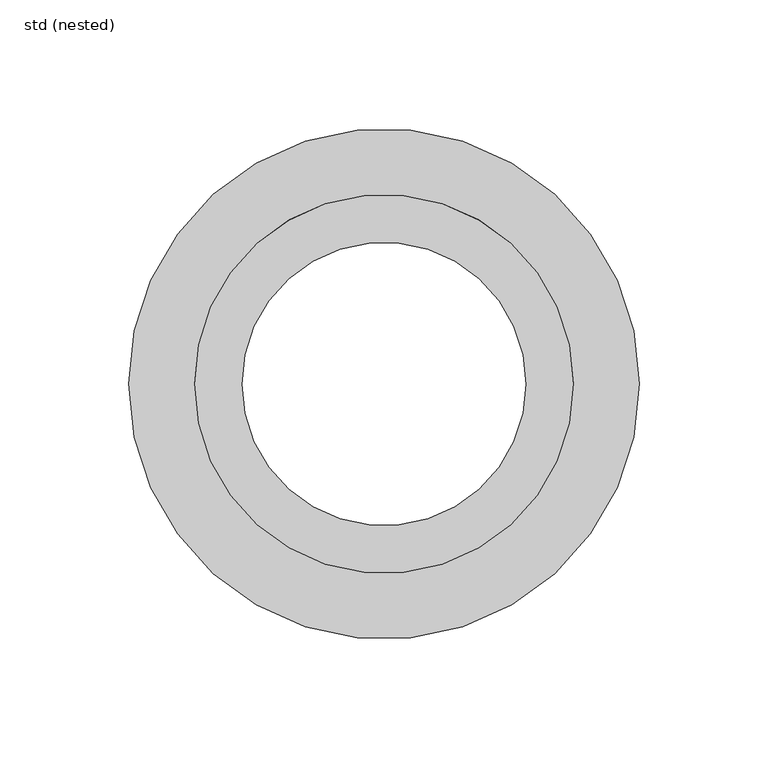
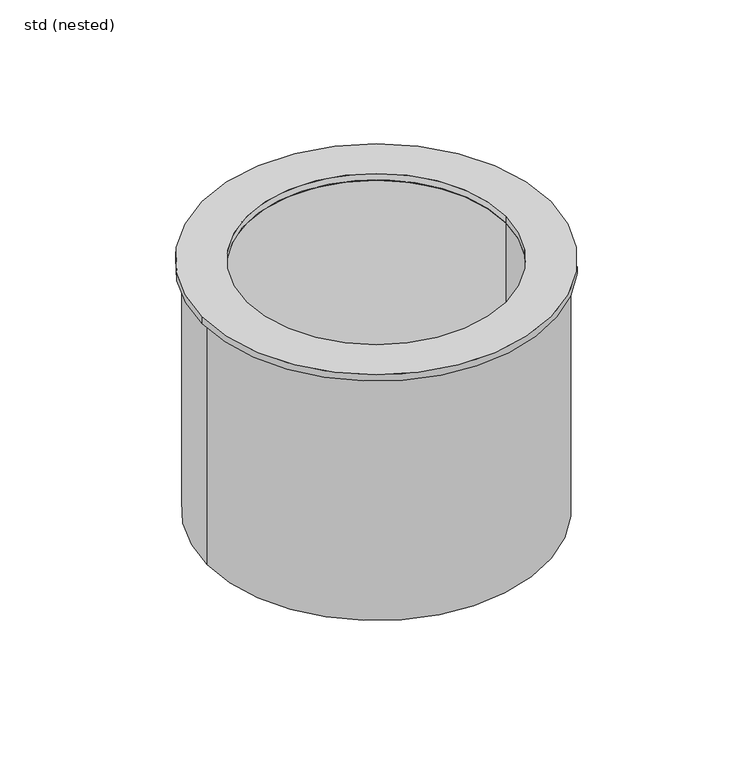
"""IFC4 building model written with IfcOpenShell, lengths in millimetres: damper geometry, ZZZ_do_not_use_PIA_GEN_UN_fire resistant kit for hygienic gullies_ACO : std (nested)."""

from ifc_helpers import new_model, si_unit, point, frame, origin, origin_with_axes, origin_2d, place, context, project, spatial, polyline, circle_curve, trimmed, segment, composite_curve, outline, extrude, source, transform, mapped, element, save
from ifc_brep_helpers import plane_surface, cylinder_surface, revolved_surface, advanced_brep


def std_nested_5a4e82dd(model_context):
    return source(origin(), model_context, "Body", "SolidModel", [
        advanced_brep(
        [(-96.0, 0.0, -150.0), (96.0, 0.0, -150.0), (-55.0, 0.0, -150.0), (55.0, 0.0, -150.0), (-96.0, 0.0, -4.0), (96.0, 0.0, -4.0), (-73.5, 0.0, -4.0), (73.5, 0.0, -4.0), (-73.5, 0.0, -146.0), (73.5, 0.0, -146.0), (96.0, 0.0, -146.0), (-96.0, 0.0, -146.0), (-55.0, 0.0, -146.0), (55.0, 0.0, -146.0)],
        [
            (0, 1, circle_curve(frame((0.0, 0.0, -150.0), z_axis=(0.0, 0.0, -1.0), x_axis=(1.0, 0.0, 0.0)), 96.0)),
            (1, 0, circle_curve(frame((0.0, 0.0, -150.0), z_axis=(0.0, 0.0, -1.0), x_axis=(1.0, 0.0, 0.0)), 96.0)),
            (2, 3, circle_curve(frame((0.0, 0.0, -150.0), z_axis=(0.0, 0.0, 1.0), x_axis=(1.0, 0.0, 0.0)), 55.0)),
            (3, 2, circle_curve(frame((0.0, 0.0, -150.0), z_axis=(0.0, 0.0, 1.0), x_axis=(1.0, 0.0, 0.0)), 55.0)),
            (4, 5, circle_curve(frame((0.0, 0.0, -4.0), z_axis=(0.0, 0.0, 1.0), x_axis=(1.0, 0.0, 0.0)), 96.0)),
            (5, 4, circle_curve(frame((0.0, 0.0, -4.0), z_axis=(0.0, 0.0, 1.0), x_axis=(1.0, 0.0, 0.0)), 96.0)),
            (6, 7, circle_curve(frame((0.0, 0.0, -4.0), z_axis=(0.0, 0.0, -1.0), x_axis=(1.0, 0.0, 0.0)), 73.5)),
            (7, 6, circle_curve(frame((0.0, 0.0, -4.0), z_axis=(0.0, 0.0, -1.0), x_axis=(1.0, 0.0, 0.0)), 73.5)),
            (6, 8),
            (8, 9, circle_curve(frame((0.0, 0.0, -146.0), z_axis=(0.0, 0.0, -1.0), x_axis=(1.0, 0.0, 0.0)), 73.5)),
            (9, 7),
            (9, 8, circle_curve(frame((0.0, 0.0, -146.0), z_axis=(0.0, 0.0, -1.0), x_axis=(1.0, 0.0, 0.0)), 73.5)),
            (1, 10),
            (10, 5),
            (4, 11),
            (11, 0),
            (12, 13, circle_curve(frame((0.0, 0.0, -146.0), z_axis=(0.0, 0.0, -1.0), x_axis=(1.0, 0.0, 0.0)), 55.0)),
            (13, 12, circle_curve(frame((0.0, 0.0, -146.0), z_axis=(0.0, 0.0, -1.0), x_axis=(1.0, 0.0, 0.0)), 55.0)),
            (3, 13),
            (12, 2),
        ],
        [
            plane_surface(frame((73.5, 0.0, -150.0), z_axis=(0.0, 0.0, -1.0), x_axis=(0.0, 1.0, 0.0))),
            plane_surface(frame((73.5, 0.0, -4.0), z_axis=(0.0, 0.0, 1.0), x_axis=(0.0, -1.0, 0.0))),
            revolved_surface(polyline([(73.5, 0.0, -146.0), (73.5, 0.0, -4.0)]), (0.0, 0.0, -150.0), (0.0, 0.0, -1.0)),
            cylinder_surface(origin_with_axes(), 96.0),
            plane_surface(frame((96.0, 0.0, -146.0), z_axis=(0.0, 0.0, 1.0), x_axis=(0.0, 1.0, 0.0))),
            revolved_surface(polyline([(55.0, 0.0, -150.0), (55.0, 0.0, -146.0)]), (0.0, 0.0, 0.0), (0.0, 0.0, -1.0)),
        ],
        [
            (0, [[1, 2], [3, 4]]),
            (1, [[5, 6], [7, 8]]),
            (2, [[-7, 9, 10, 11]]),
            (2, [[-8, -11, 12, -9]]),
            (3, [[-2, 13, 14, -5, 15, 16]]),
            (3, [[-1, -16, -15, -6, -14, -13]]),
            (4, [[-10, -12], [17, 18]]),
            (5, [[-4, 19, -17, 20]]),
            (5, [[-3, -20, -18, -19]]),
        ],
    ),
        extrude(outline(composite_curve([segment(trimmed(circle_curve(origin_2d(), 99.0), [point((-99.0, 0.0))], [point((99.0, 0.0))], False, "CARTESIAN"), True, "CONTINUOUS"), segment(trimmed(circle_curve(origin_2d(), 99.0), [point((99.0, 0.0))], [point((-99.0, 0.0))], False, "CARTESIAN"), True, "CONTINUOUS")], self_intersect=False), holes=[composite_curve([segment(trimmed(circle_curve(origin_2d(), 73.5), [point((-73.5, 0.0))], [point((73.5, 0.0))], True, "CARTESIAN"), True, "CONTINUOUS"), segment(trimmed(circle_curve(origin_2d(), 73.5), [point((73.5, 0.0))], [point((-73.5, 0.0))], True, "CARTESIAN"), True, "CONTINUOUS")], self_intersect=False)]), frame((0.0, 0.0, -4.0), z_axis=(0.0, 0.0, 1.0), x_axis=(1.0, 0.0, 0.0)), (0.0, 0.0, 1.0), 4.0),
    ])


if __name__ == "__main__":
    model = new_model("IFC4")
    model_context = context("Model", 3, world=origin())
    ifc_project = project(units=[si_unit("LENGTHUNIT", "METRE", prefix="MILLI")], contexts=[model_context])
    site = spatial("IfcSite", under=ifc_project)
    building = spatial("IfcBuilding", under=site)
    placement = place(None, origin())
    std_nested_shape = std_nested_5a4e82dd(model_context)
    element("IfcDamper", 1, ObjectType="ZZZ_do_not_use_PIA_GEN_UN_fire resistant kit for hygienic gullies_ACO : std (nested)", at=placement, inside=building, context=model_context, shape_type="MappedRepresentation", body=[
        mapped(std_nested_shape, transform((0.0, 0.0, 0.0), x_axis=(1.0, 0.0, 0.0), y_axis=(0.0, 1.0, 0.0), z_axis=(0.0, 0.0, 1.0))),
    ])
    save(model, "model.ifc")
